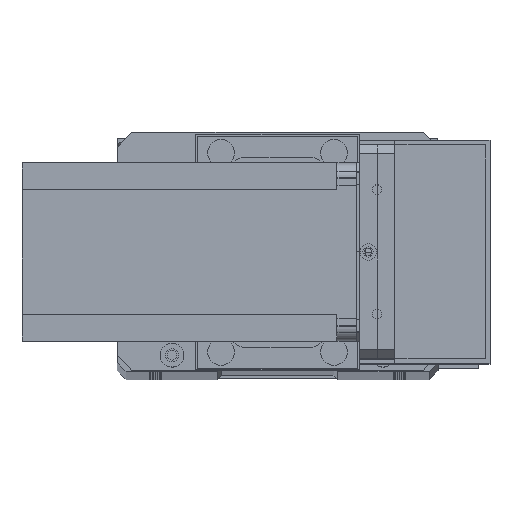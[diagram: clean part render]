
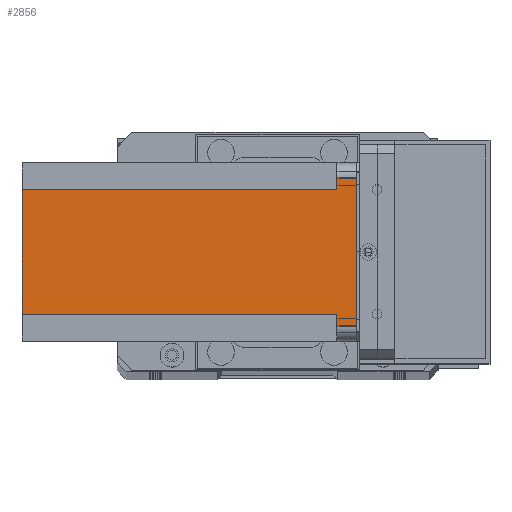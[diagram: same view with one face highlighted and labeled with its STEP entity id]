
A CAD part, top view. The second image highlights one B-rep face of the part: STEP entity #2856.
In plain terms, the highlighted planar face has unit normal (0, 0, 1) as drawn and (1, 0, 0) by its records, which use the part's own axes.
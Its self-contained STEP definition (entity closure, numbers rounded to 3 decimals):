
#785 = EDGE_CURVE ( 'NONE', #18870, #24179, #25158, .T. ) ;
#1301 = CARTESIAN_POINT ( 'NONE',  ( 60., 9., -6.5 ) ) ;
#1812 = ORIENTED_EDGE ( 'NONE', *, *, #25457, .F. ) ;
#2856 = ADVANCED_FACE ( 'NONE', ( #10493 ), #21949, .T. ) ;
#2859 = LINE ( 'NONE', #25030, #7814 ) ;
#3138 = CARTESIAN_POINT ( 'NONE',  ( 60., 5., 0. ) ) ;
#3203 = VECTOR ( 'NONE', #28456, 1000. ) ;
#3279 = ORIENTED_EDGE ( 'NONE', *, *, #29108, .T. ) ;
#4148 = LINE ( 'NONE', #17079, #22754 ) ;
#4983 = VECTOR ( 'NONE', #15869, 1000. ) ;
#5224 = VERTEX_POINT ( 'NONE', #7549 ) ;
#5864 = EDGE_CURVE ( 'NONE', #5224, #13150, #9976, .T. ) ;
#7427 = DIRECTION ( 'NONE',  ( 0., 1., 0. ) ) ;
#7549 = CARTESIAN_POINT ( 'NONE',  ( 60., 51., -6.5 ) ) ;
#7574 = LINE ( 'NONE', #8726, #20435 ) ;
#7814 = VECTOR ( 'NONE', #8065, 1000. ) ;
#7986 = ORIENTED_EDGE ( 'NONE', *, *, #785, .T. ) ;
#8065 = DIRECTION ( 'NONE',  ( 0., -1., 0. ) ) ;
#8726 = CARTESIAN_POINT ( 'NONE',  ( 60., 0., -112.5 ) ) ;
#9206 = VECTOR ( 'NONE', #25537, 1000. ) ;
#9976 = LINE ( 'NONE', #28009, #9206 ) ;
#10479 = LINE ( 'NONE', #11038, #16131 ) ;
#10493 = FACE_OUTER_BOUND ( 'NONE', #30605, .T. ) ;
#11038 = CARTESIAN_POINT ( 'NONE',  ( 60., 9., -112.5 ) ) ;
#11474 = CARTESIAN_POINT ( 'NONE',  ( 60., 60., -6.5 ) ) ;
#11667 = VERTEX_POINT ( 'NONE', #29187 ) ;
#12242 = DIRECTION ( 'NONE',  ( 0., 0., -1. ) ) ;
#13150 = VERTEX_POINT ( 'NONE', #20465 ) ;
#13410 = ORIENTED_EDGE ( 'NONE', *, *, #15769, .F. ) ;
#14601 = DIRECTION ( 'NONE',  ( 1., 0., 0. ) ) ;
#15769 = EDGE_CURVE ( 'NONE', #17672, #24179, #24361, .T. ) ;
#15869 = DIRECTION ( 'NONE',  ( 0., 1., 0. ) ) ;
#15987 = AXIS2_PLACEMENT_3D ( 'NONE', #19482, #14601, #7427 ) ;
#16131 = VECTOR ( 'NONE', #30462, 1000. ) ;
#17002 = CARTESIAN_POINT ( 'NONE',  ( 60., 55., 0. ) ) ;
#17079 = CARTESIAN_POINT ( 'NONE',  ( 60., 5., -112.5 ) ) ;
#17419 = ORIENTED_EDGE ( 'NONE', *, *, #25095, .F. ) ;
#17574 = CARTESIAN_POINT ( 'NONE',  ( 60., 55., -6.5 ) ) ;
#17672 = VERTEX_POINT ( 'NONE', #3138 ) ;
#18314 = ORIENTED_EDGE ( 'NONE', *, *, #26165, .F. ) ;
#18870 = VERTEX_POINT ( 'NONE', #17574 ) ;
#19305 = DIRECTION ( 'NONE',  ( 0., 0., 1. ) ) ;
#19482 = CARTESIAN_POINT ( 'NONE',  ( 60., 0., -112.5 ) ) ;
#19632 = VERTEX_POINT ( 'NONE', #25403 ) ;
#20435 = VECTOR ( 'NONE', #25698, 1000. ) ;
#20465 = CARTESIAN_POINT ( 'NONE',  ( 60., 51., -112.5 ) ) ;
#20661 = CARTESIAN_POINT ( 'NONE',  ( 60., 0., 0. ) ) ;
#21949 = PLANE ( 'NONE',  #15987 ) ;
#22754 = VECTOR ( 'NONE', #12242, 1000. ) ;
#22898 = ORIENTED_EDGE ( 'NONE', *, *, #5864, .F. ) ;
#24179 = VERTEX_POINT ( 'NONE', #17002 ) ;
#24361 = LINE ( 'NONE', #20661, #4983 ) ;
#25030 = CARTESIAN_POINT ( 'NONE',  ( 60., 0., -6.5 ) ) ;
#25095 = EDGE_CURVE ( 'NONE', #11667, #26074, #10479, .T. ) ;
#25158 = LINE ( 'NONE', #31450, #30855 ) ;
#25403 = CARTESIAN_POINT ( 'NONE',  ( 60., 5., -6.5 ) ) ;
#25457 = EDGE_CURVE ( 'NONE', #26074, #19632, #2859, .T. ) ;
#25537 = DIRECTION ( 'NONE',  ( 0., 0., -1. ) ) ;
#25698 = DIRECTION ( 'NONE',  ( 0., 1., 0. ) ) ;
#26074 = VERTEX_POINT ( 'NONE', #1301 ) ;
#26165 = EDGE_CURVE ( 'NONE', #18870, #5224, #28261, .T. ) ;
#28009 = CARTESIAN_POINT ( 'NONE',  ( 60., 51., -112.5 ) ) ;
#28261 = LINE ( 'NONE', #11474, #3203 ) ;
#28456 = DIRECTION ( 'NONE',  ( 0., -1., 0. ) ) ;
#28979 = ORIENTED_EDGE ( 'NONE', *, *, #31243, .T. ) ;
#29108 = EDGE_CURVE ( 'NONE', #17672, #19632, #4148, .T. ) ;
#29187 = CARTESIAN_POINT ( 'NONE',  ( 60., 9., -112.5 ) ) ;
#30462 = DIRECTION ( 'NONE',  ( 0., 0., 1. ) ) ;
#30605 = EDGE_LOOP ( 'NONE', ( #18314, #7986, #13410, #3279, #1812, #17419, #28979, #22898 ) ) ;
#30855 = VECTOR ( 'NONE', #19305, 1000. ) ;
#31243 = EDGE_CURVE ( 'NONE', #11667, #13150, #7574, .T. ) ;
#31450 = CARTESIAN_POINT ( 'NONE',  ( 60., 55., -112.5 ) ) ;
